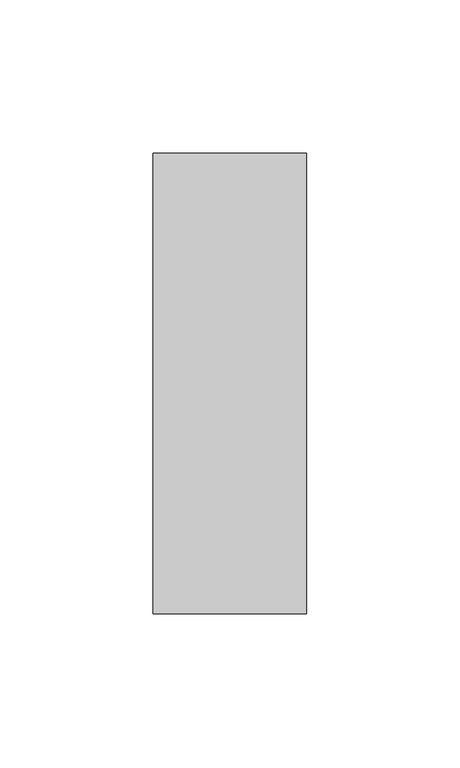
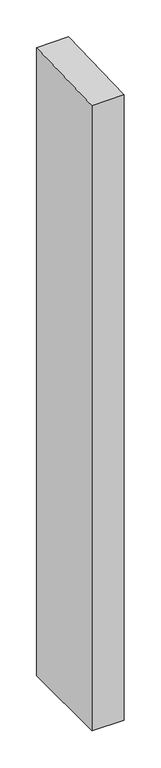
"""IFC4 building model written with IfcOpenShell, lengths in millimetres: member geometry, Прямоугольный импост : 50 x 150 мм."""

from ifc_helpers import new_model, si_unit, origin, place, context, project, spatial, faceted_brep, source, transform, mapped, element, save


def member_a14a65e4(model_context):
    return source(origin(), model_context, "Body", "Brep", [
        faceted_brep([(-25.0, 75.0, 2.0608376), (25.0, 75.0, 2.6299565), (25.0, 75.0, -1035.365378), (-25.0, 75.0, -1034.8300543), (-25.0, -75.0, -2.6299565), (-25.0, -75.0, -1035.0473912), (25.0, -75.0, -2.0608376), (25.0, -75.0, -1035.5827149)], [[[0, 1, 2, 3]], [[4, 0, 3, 5]], [[6, 4, 5, 7]], [[1, 6, 7, 2]], [[1, 0, 4, 6]], [[2, 7, 5, 3]]]),
    ])


if __name__ == "__main__":
    model = new_model("IFC4")
    model_context = context("Model", 3, world=origin())
    ifc_project = project(units=[si_unit("LENGTHUNIT", "METRE", prefix="MILLI")], contexts=[model_context])
    site = spatial("IfcSite", under=ifc_project)
    building = spatial("IfcBuilding", under=site)
    placement = place(None, origin())
    member_shape = member_a14a65e4(model_context)
    element("IfcMember", 1, ObjectType="Прямоугольный импост : 50 x 150 мм", at=placement, inside=building, context=model_context, shape_type="MappedRepresentation", body=[
        mapped(member_shape, transform((0.0, 0.0, 0.0), x_axis=(1.0, 0.0, 0.0), y_axis=(0.0, 1.0, 0.0), z_axis=(0.0, 0.0, 1.0))),
    ])
    save(model, "model.ifc")
